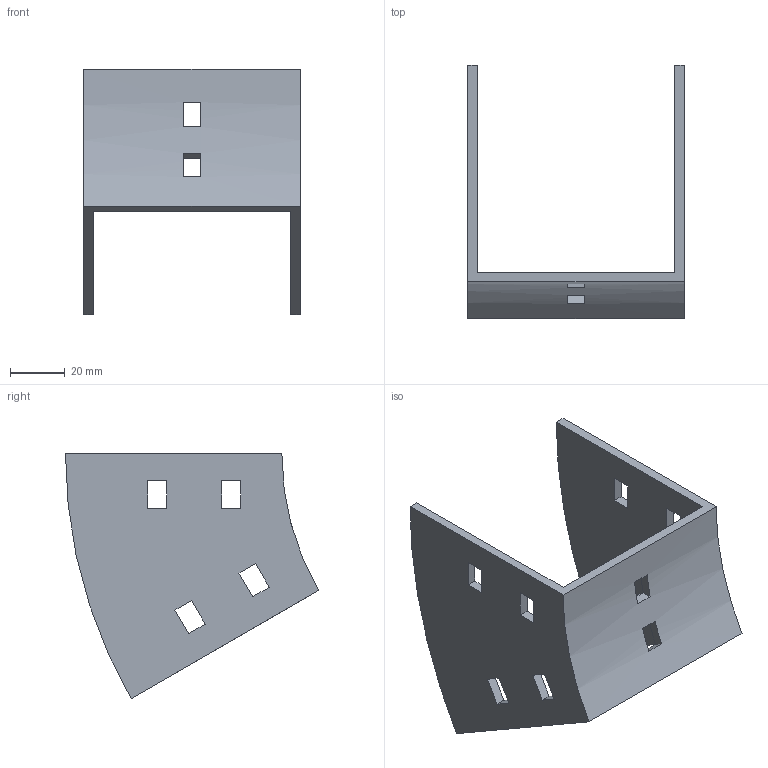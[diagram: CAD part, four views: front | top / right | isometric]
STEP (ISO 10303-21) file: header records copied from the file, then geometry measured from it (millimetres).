
FILE_DESCRIPTION (( 'STEP AP214' ), '1' );
FILE_NAME ('35B1C075.step', '2025-02-21T09:26:16', ( '' ), ( '' ), 'SwSTEP 2.0', 'SolidWorks 2023', '' );
FILE_SCHEMA (( 'AUTOMOTIVE_DESIGN' ));
Length unit declared in the file: millimetre
Products named in the file (1): 35B1C075
Bounding box: 79 x 92.4 x 89.5 mm (x, y, z)
Volume: 51442.7 mm3; surface area: 32827.5 mm2
Topology: 1 solids, 1 shells, 50 faces, 144 edges, 96 vertices
Faces by surface type: plane 46, cylinder 4
Entity records: 1687 total; most frequent: CARTESIAN_POINT 291, ORIENTED_EDGE 288, DIRECTION 262, EDGE_CURVE 144, LINE 128, VECTOR 128, VERTEX_POINT 96, EDGE_LOOP 70
